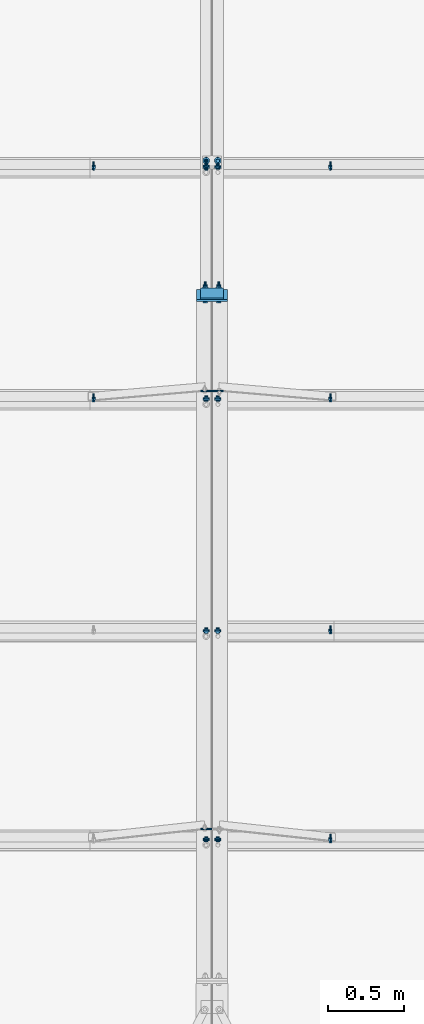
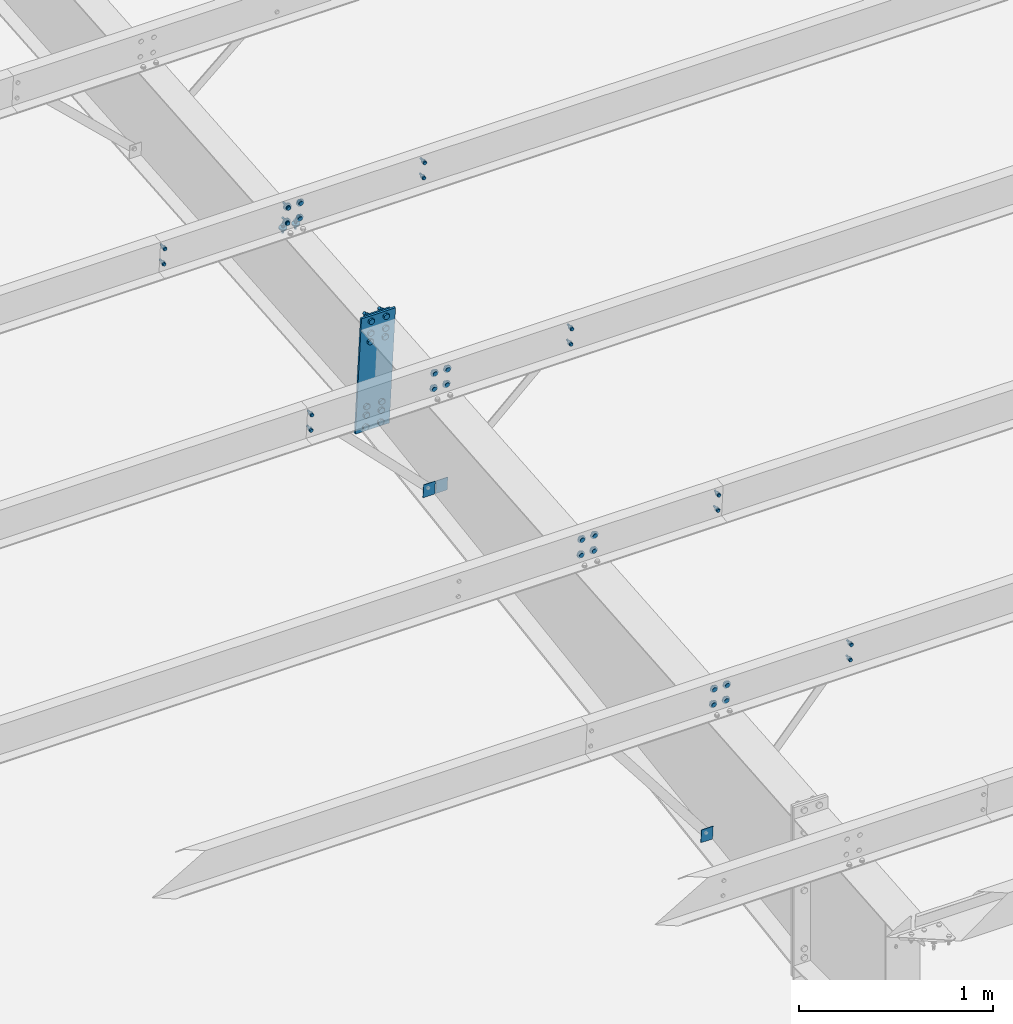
# One storey, part 74 of 185: 19 mechanical fasteners, 5 discrete accessories, 11 elements without a shape of their own.
"""IFC2X3 building model written with IfcOpenShell, lengths in millimetres."""

from ifc_helpers import new_model, si_unit, frame, origin_with_axes, origin_2d_with_axis, place, context, subcontext, project, spatial, polyline, rectangle, circle, outline, extrude, source, transform, mapped, material, type_object, element, aggregate, save


model = new_model("IFC2X3")

# Units and contexts
model_context = context("Model", 3, precision=1e-05, world=origin_with_axes())
body_context = subcontext(model_context, "Body", "Model", "MODEL_VIEW")
ifc_project = project(units=[si_unit("LENGTHUNIT", "METRE", prefix="MILLI"), si_unit("AREAUNIT", "SQUARE_METRE"), si_unit("VOLUMEUNIT", "CUBIC_METRE"), si_unit("MASSUNIT", "GRAM", prefix="KILO"), si_unit("TIMEUNIT", "SECOND"), si_unit("PLANEANGLEUNIT", "RADIAN"), si_unit("SOLIDANGLEUNIT", "STERADIAN"), si_unit("THERMODYNAMICTEMPERATUREUNIT", "DEGREE_CELSIUS"), si_unit("LUMINOUSINTENSITYUNIT", "LUMEN")], contexts=[model_context])

# Site, building, storey
site_placement = place(None, origin_with_axes())
site = spatial("IfcSite", under=ifc_project, at=site_placement, Name="Undefined", CompositionType="ELEMENT")
building_placement = place(site_placement, origin_with_axes())
building = spatial("IfcBuilding", under=site, at=building_placement, Name="Undefined", CompositionType="ELEMENT")
storey_placement = place(building_placement, origin_with_axes())
storey = spatial("IfcBuildingStorey", under=building, at=storey_placement, Name="Undefined", CompositionType="ELEMENT", Elevation=0.0)

# Assembly, mechanical fastener
assembly_1_placement = place(storey_placement, origin_with_axes())
assembly_1 = element("IfcElementAssembly", 1, at=assembly_1_placement, inside=storey, Name="Steel Assembly", AssemblyPlace="NOTDEFINED", PredefinedType="RIGID_FRAME")
ifc_material_1 = material(Name="Undefined")
discrete_accessory_type_1 = type_object("IfcDiscreteAccessoryType", Name="Bolt assembly")
shared_shape_1 = source(origin_with_axes(), body_context, "Body", "SweptSolid", [
    extrude(circle(Radius=7.14374971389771, at=origin_2d_with_axis()), frame((0.0, -1.59000001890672, 0.0), z_axis=(0.0, 1.0, 0.0), x_axis=(1.0, 0.0, 0.0)), (0.0, 0.0, 1.0), 3.3),
    extrude(circle(Radius=13.4937496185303, at=origin_2d_with_axis()), frame((0.0, -5.5587500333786, 0.0), z_axis=(0.0, 1.0, 0.0), x_axis=(1.0, 0.0, 0.0)), (0.0, 0.0, 1.0), 4.0),
    extrude(circle(Radius=22.2250003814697, at=origin_2d_with_axis()), frame((0.0, 1.5900000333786, 0.0), z_axis=(0.0, 1.0, 0.0), x_axis=(1.0, 0.0, 0.0)), (0.0, 0.0, 1.0), 7.9),
    extrude(outline(polyline([(12.8316099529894, 0.0), (6.4158049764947, 11.1125001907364), (-6.4158049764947, 11.1125001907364), (-12.8316099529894, 0.0), (-6.4158049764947, -11.1125001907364), (6.4158049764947, -11.1125001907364), (12.8316099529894, 0.0)])), frame((0.0, 9.5275000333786, 0.0), z_axis=(0.0, 1.0, 0.0), x_axis=(1.0, 0.0, 0.0)), (0.0, 0.0, 1.0), 12.3),
])
mechanical_fastener_1_placement = place(assembly_1_placement, frame((22517.1, 2185.7239412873, 6227.16757842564), z_axis=(1.0, 0.0, 0.0), x_axis=(0.0, 0.0830454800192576, -0.996545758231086)))
mechanical_fastener_1 = element("IfcMechanicalFastener", 2, at=mechanical_fastener_1_placement, type_object=discrete_accessory_type_1, material=ifc_material_1, Name="Bolt assembly", NominalDiameter=12.6999998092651, NominalLength=38.0999984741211, context=body_context, shape_type="MappedRepresentation", body=[
    mapped(shared_shape_1, transform((0.0, 0.0, 0.0))),
    mapped(shared_shape_1, transform((101.599998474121, 0.0, 0.0))),
])
aggregate(assembly_1, [mechanical_fastener_1])

assembly_2_placement = place(storey_placement, origin_with_axes())
assembly_2 = element("IfcElementAssembly", 3, at=assembly_2_placement, inside=storey, Name="Steel Assembly", AssemblyPlace="NOTDEFINED", PredefinedType="RIGID_FRAME")
mechanical_fastener_2_placement = place(assembly_2_placement, frame((22440.9, 2185.7239412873, 6227.16757842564), z_axis=(1.0, 0.0, 0.0), x_axis=(0.0, 0.0830454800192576, -0.996545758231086)))
mechanical_fastener_2 = element("IfcMechanicalFastener", 4, at=mechanical_fastener_2_placement, type_object=discrete_accessory_type_1, material=ifc_material_1, Name="Bolt assembly", NominalDiameter=12.6999998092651, NominalLength=38.0999984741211, context=body_context, shape_type="MappedRepresentation", body=[
    mapped(shared_shape_1, transform((0.0, 0.0, 0.0))),
    mapped(shared_shape_1, transform((101.599998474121, 0.0, 0.0))),
])

assembly_3_placement = place(storey_placement, origin_with_axes())
assembly_3 = element("IfcElementAssembly", 5, at=assembly_3_placement, inside=storey, Name="Steel Assembly", AssemblyPlace="NOTDEFINED", PredefinedType="RIGID_FRAME")
mechanical_fastener_3_placement = place(assembly_3_placement, frame((22517.1, 3552.58610327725, 6341.07275882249), z_axis=(1.0, 0.0, 0.0), x_axis=(0.0, 0.0830454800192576, -0.996545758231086)))
mechanical_fastener_3 = element("IfcMechanicalFastener", 6, at=mechanical_fastener_3_placement, type_object=discrete_accessory_type_1, material=ifc_material_1, Name="Bolt assembly", NominalDiameter=12.6999998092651, NominalLength=38.0999984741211, context=body_context, shape_type="MappedRepresentation", body=[
    mapped(shared_shape_1, transform((0.0, 0.0, 0.0))),
    mapped(shared_shape_1, transform((101.599998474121, 0.0, 0.0))),
])
aggregate(assembly_3, [mechanical_fastener_3])

assembly_4_placement = place(storey_placement, origin_with_axes())
assembly_4 = element("IfcElementAssembly", 7, at=assembly_4_placement, inside=storey, Name="Steel Assembly", AssemblyPlace="NOTDEFINED", PredefinedType="RIGID_FRAME")
mechanical_fastener_4_placement = place(assembly_4_placement, frame((22440.9, 3552.58610327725, 6341.07275882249), z_axis=(1.0, 0.0, 0.0), x_axis=(0.0, 0.0830454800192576, -0.996545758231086)))
mechanical_fastener_4 = element("IfcMechanicalFastener", 8, at=mechanical_fastener_4_placement, type_object=discrete_accessory_type_1, material=ifc_material_1, Name="Bolt assembly", NominalDiameter=12.6999998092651, NominalLength=38.0999984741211, context=body_context, shape_type="MappedRepresentation", body=[
    mapped(shared_shape_1, transform((0.0, 0.0, 0.0))),
    mapped(shared_shape_1, transform((101.599998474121, 0.0, 0.0))),
])

assembly_5_placement = place(storey_placement, origin_with_axes())
assembly_5 = element("IfcElementAssembly", 9, at=assembly_5_placement, inside=storey, Name="Steel Assembly", AssemblyPlace="NOTDEFINED", PredefinedType="RIGID_FRAME")
mechanical_fastener_5_placement = place(assembly_5_placement, frame((22517.1, 5071.32183882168, 6467.63407037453), z_axis=(1.0, 0.0, 0.0), x_axis=(0.0, 0.0830454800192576, -0.996545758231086)))
mechanical_fastener_5 = element("IfcMechanicalFastener", 10, at=mechanical_fastener_5_placement, type_object=discrete_accessory_type_1, material=ifc_material_1, Name="Bolt assembly", NominalDiameter=12.6999998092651, NominalLength=38.0999984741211, context=body_context, shape_type="MappedRepresentation", body=[
    mapped(shared_shape_1, transform((0.0, 0.0, 0.0))),
    mapped(shared_shape_1, transform((101.599998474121, 0.0, 0.0))),
])
aggregate(assembly_5, [mechanical_fastener_5])

assembly_6_placement = place(storey_placement, origin_with_axes())
assembly_6 = element("IfcElementAssembly", 11, at=assembly_6_placement, inside=storey, Name="Steel Assembly", AssemblyPlace="NOTDEFINED", PredefinedType="RIGID_FRAME")
mechanical_fastener_6_placement = place(assembly_6_placement, frame((22440.9, 5071.32183882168, 6467.63407037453), z_axis=(1.0, 0.0, 0.0), x_axis=(0.0, 0.0830454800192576, -0.996545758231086)))
mechanical_fastener_6 = element("IfcMechanicalFastener", 12, at=mechanical_fastener_6_placement, type_object=discrete_accessory_type_1, material=ifc_material_1, Name="Bolt assembly", NominalDiameter=12.6999998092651, NominalLength=38.0999984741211, context=body_context, shape_type="MappedRepresentation", body=[
    mapped(shared_shape_1, transform((0.0, 0.0, 0.0))),
    mapped(shared_shape_1, transform((101.599998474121, 0.0, 0.0))),
])

assembly_7_placement = place(storey_placement, origin_with_axes())
assembly_7 = element("IfcElementAssembly", 13, at=assembly_7_placement, inside=storey, Name="Steel Assembly", AssemblyPlace="NOTDEFINED", PredefinedType="RIGID_FRAME")
mechanical_fastener_7_placement = place(assembly_7_placement, frame((22517.1, 6590.05757436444, 6594.19538192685), z_axis=(1.0, 0.0, 0.0), x_axis=(0.0, 0.0830454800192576, -0.996545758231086)))
mechanical_fastener_7 = element("IfcMechanicalFastener", 14, at=mechanical_fastener_7_placement, type_object=discrete_accessory_type_1, material=ifc_material_1, Name="Bolt assembly", NominalDiameter=12.6999998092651, NominalLength=38.0999984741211, context=body_context, shape_type="MappedRepresentation", body=[
    mapped(shared_shape_1, transform((0.0, 0.0, 0.0))),
    mapped(shared_shape_1, transform((101.599998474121, 0.0, 0.0))),
])
aggregate(assembly_7, [mechanical_fastener_7])

assembly_8_placement = place(storey_placement, origin_with_axes())
assembly_8 = element("IfcElementAssembly", 15, at=assembly_8_placement, inside=storey, Name="Steel Assembly", AssemblyPlace="NOTDEFINED", PredefinedType="RIGID_FRAME")
mechanical_fastener_8_placement = place(assembly_8_placement, frame((22440.9, 6590.05757430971, 6594.19538268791), z_axis=(1.0, 0.0, 0.0), x_axis=(0.0, 0.0830454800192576, -0.996545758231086)))
mechanical_fastener_8 = element("IfcMechanicalFastener", 16, at=mechanical_fastener_8_placement, type_object=discrete_accessory_type_1, material=ifc_material_1, Name="Bolt assembly", NominalDiameter=12.6999998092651, NominalLength=38.0999984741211, context=body_context, shape_type="MappedRepresentation", body=[
    mapped(shared_shape_1, transform((0.0, 0.0, 0.0))),
    mapped(shared_shape_1, transform((101.599998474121, 0.0, 0.0))),
])

# Assembly, discrete accessories
assembly_9_placement = place(storey_placement, origin_with_axes())
assembly_9 = element("IfcElementAssembly", 17, at=assembly_9_placement, inside=storey, Name="Steel Assembly", AssemblyPlace="NOTDEFINED", PredefinedType="RIGID_FRAME")
ifc_material_2 = material(Name="STEEL/55")
discrete_accessory_type_2 = type_object("IfcDiscreteAccessoryType", Name="FLANGE BRACE FLIP")
discrete_accessory_1_placement = place(assembly_9_placement, frame((22481.381, 5133.65232140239, 5699.10123572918), z_axis=(0.0, -0.0830454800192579, 0.996545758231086), x_axis=(1.0, 0.0, 0.0)))
discrete_accessory_1 = element("IfcDiscreteAccessory", 18, at=discrete_accessory_1_placement, type_object=discrete_accessory_type_2, material=ifc_material_2, Name="FLANGE BRACE FLIP", ObjectType="PL1/8\"X2 3/4\"", context=body_context, shape_type="SweptSolid", body=[
    extrude(rectangle(XDim=3.416, YDim=85.725, at=origin_2d_with_axis()), frame((69.8499999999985, 0.0, 0.0), z_axis=(-1.0, 0.0, 0.0), x_axis=(0.0, -1.0, 0.0)), (0.0, 0.0, 1.0), 69.8),
])
discrete_accessory_2_placement = place(assembly_9_placement, frame((22476.619, 5133.65232140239, 5699.10123572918), z_axis=(0.0, -0.0830454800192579, 0.996545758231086), x_axis=(-1.0, 0.0, 0.0)))
discrete_accessory_2 = element("IfcDiscreteAccessory", 19, at=discrete_accessory_2_placement, type_object=discrete_accessory_type_2, material=ifc_material_2, Name="FLANGE BRACE FLIP", ObjectType="PL1/8\"X2 3/4\"", context=body_context, shape_type="SweptSolid", body=[
    extrude(rectangle(XDim=3.416, YDim=85.725, at=origin_2d_with_axis()), frame((69.8499999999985, 0.0, 0.0), z_axis=(-1.0, 0.0, 0.0), x_axis=(0.0, -1.0, 0.0)), (0.0, 0.0, 1.0), 69.8),
])
discrete_accessory_3_placement = place(assembly_9_placement, frame((22476.619, 2264.17630960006, 5265.17211501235), z_axis=(0.0, -0.0830454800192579, 0.996545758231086), x_axis=(-1.0, 0.0, 0.0)))
discrete_accessory_3 = element("IfcDiscreteAccessory", 20, at=discrete_accessory_3_placement, type_object=discrete_accessory_type_2, material=ifc_material_2, Name="FLANGE BRACE FLIP", ObjectType="PL1/8\"X2 3/4\"", context=body_context, shape_type="SweptSolid", body=[
    extrude(rectangle(XDim=3.416, YDim=85.725, at=origin_2d_with_axis()), frame((69.8499999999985, 0.0, 0.0), z_axis=(-1.0, 0.0, 0.0), x_axis=(0.0, -1.0, 0.0)), (0.0, 0.0, 1.0), 69.8),
])

# Assembly, mechanical fastener
assembly_10_placement = place(storey_placement, origin_with_axes())
assembly_10 = element("IfcElementAssembly", 21, at=assembly_10_placement, inside=storey, Name="Steel Assembly", AssemblyPlace="NOTDEFINED", PredefinedType="RIGID_FRAME")
shared_shape_2 = source(origin_with_axes(), body_context, "Body", "SweptSolid", [
    extrude(circle(Radius=7.14374971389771, at=origin_2d_with_axis()), frame((0.0, -4.65999985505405, 0.0), z_axis=(0.0, 1.0, 0.0), x_axis=(1.0, 0.0, 0.0)), (0.0, 0.0, 1.0), 4.8),
    extrude(circle(Radius=7.14374971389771, at=origin_2d_with_axis()), frame((0.0, -0.0238014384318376, 0.0), z_axis=(0.0, 1.0, 0.0), x_axis=(1.0, 0.0, 0.0)), (0.0, 0.0, 1.0), 8.0),
    extrude(outline(polyline([(12.8316099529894, 0.0), (6.4158049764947, 11.1125001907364), (-6.4158049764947, 11.1125001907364), (-12.8316099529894, 0.0), (-6.4158049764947, -11.1125001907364), (6.4158049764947, -11.1125001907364), (12.8316099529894, 0.0)])), frame((0.0, -12.697499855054, 0.0), z_axis=(0.0, 1.0, 0.0), x_axis=(1.0, 0.0, 0.0)), (0.0, 0.0, 1.0), 7.9),
    extrude(circle(Radius=6.34999990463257, at=origin_2d_with_axis()), frame((0.0, -4.75999985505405, 0.0), z_axis=(0.0, 1.0, 0.0), x_axis=(1.0, 0.0, 0.0)), (0.0, 0.0, 1.0), 50.8),
    extrude(circle(Radius=22.2250003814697, at=origin_2d_with_axis()), frame((0.0, 7.95019856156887, 0.0), z_axis=(0.0, 1.0, 0.0), x_axis=(1.0, 0.0, 0.0)), (0.0, 0.0, 1.0), 7.9),
    extrude(outline(polyline([(12.8316099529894, 0.0), (6.4158049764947, 11.1125001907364), (-6.4158049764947, 11.1125001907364), (-12.8316099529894, 0.0), (-6.4158049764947, -11.1125001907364), (6.4158049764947, -11.1125001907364), (12.8316099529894, 0.0)])), frame((0.0, 15.8876985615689, 0.0), z_axis=(0.0, 1.0, 0.0), x_axis=(1.0, 0.0, 0.0)), (0.0, 0.0, 1.0), 12.3),
])
mechanical_fastener_9_placement = place(assembly_10_placement, frame((22479.0, 6640.68209888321, 6445.4858411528), z_axis=(-1.0, 0.0, 0.0), x_axis=(0.0, 0.996545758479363, 0.0830454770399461)))
mechanical_fastener_9 = element("IfcMechanicalFastener", 22, at=mechanical_fastener_9_placement, type_object=discrete_accessory_type_1, material=ifc_material_1, Name="Bolt assembly", NominalDiameter=12.6999998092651, NominalLength=50.7999992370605, context=body_context, shape_type="MappedRepresentation", body=[
    mapped(shared_shape_2, transform((0.0, 0.0, -38.0999984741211))),
    mapped(shared_shape_2, transform((0.0, 0.0, 38.0999984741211))),
])

# Assembly, mechanical fasteners
assembly_11_placement = place(storey_placement, origin_with_axes())
assembly_11 = element("IfcElementAssembly", 23, at=assembly_11_placement, inside=storey, Name="Steel Assembly", AssemblyPlace="NOTDEFINED", PredefinedType="RIGID_FRAME")
shared_shape_3 = source(origin_with_axes(), body_context, "Body", "SweptSolid", [
    extrude(circle(Radius=7.14374971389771, at=origin_2d_with_axis()), frame((0.0, 0.0, 0.0), z_axis=(0.0, 1.0, 0.0), x_axis=(1.0, 0.0, 0.0)), (0.0, 0.0, 1.0), 4.9),
    extrude(outline(polyline([(12.8316099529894, 0.0), (6.4158049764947, 11.1125001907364), (-6.4158049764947, 11.1125001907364), (-12.8316099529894, 0.0), (-6.4158049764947, -11.1125001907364), (6.4158049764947, -11.1125001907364), (12.8316099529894, 0.0)])), frame((0.0, 4.76000382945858, 0.0), z_axis=(0.0, 1.0, 0.0), x_axis=(1.0, 0.0, 0.0)), (0.0, 0.0, 1.0), 12.3),
])
mechanical_fastener_10_placement = place(assembly_11_placement, frame((22517.1, 6590.05757436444, 6594.19538192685), z_axis=(1.0, 0.0, 0.0), x_axis=(0.0, 0.0830454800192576, -0.996545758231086)))
mechanical_fastener_10 = element("IfcMechanicalFastener", 24, at=mechanical_fastener_10_placement, type_object=discrete_accessory_type_1, material=ifc_material_1, Name="Bolt assembly", NominalDiameter=12.6999998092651, NominalLength=50.7999992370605, context=body_context, shape_type="MappedRepresentation", body=[
    mapped(shared_shape_3, transform((0.0, 0.0, 0.0))),
    mapped(shared_shape_3, transform((101.599998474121, 0.0, 0.0))),
])
shared_shape_4 = source(origin_with_axes(), body_context, "Body", "SweptSolid", [
    extrude(circle(Radius=7.14374971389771, at=origin_2d_with_axis()), frame((0.0, 0.0, 0.0), z_axis=(0.0, 1.0, 0.0), x_axis=(1.0, 0.0, 0.0)), (0.0, 0.0, 1.0), 4.9),
    extrude(outline(polyline([(12.8316099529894, 0.0), (6.4158049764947, 11.1125001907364), (-6.4158049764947, 11.1125001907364), (-12.8316099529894, 0.0), (-6.4158049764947, -11.1125001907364), (6.4158049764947, -11.1125001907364), (12.8316099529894, 0.0)])), frame((0.0, -11.9062498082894, 0.0), z_axis=(0.0, 1.0, 0.0), x_axis=(1.0, 0.0, 0.0)), (0.0, 0.0, 1.0), 7.9),
    extrude(circle(Radius=6.34999990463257, at=origin_2d_with_axis()), frame((0.0, -3.96874999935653, 0.0), z_axis=(0.0, 1.0, 0.0), x_axis=(1.0, 0.0, 0.0)), (0.0, 0.0, 1.0), 50.8),
    extrude(circle(Radius=13.4937496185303, at=origin_2d_with_axis()), frame((0.0, -3.96874999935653, 0.0), z_axis=(0.0, 1.0, 0.0), x_axis=(1.0, 0.0, 0.0)), (0.0, 0.0, 1.0), 4.0),
    extrude(circle(Radius=22.2250003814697, at=origin_2d_with_axis()), frame((0.0, 4.76000382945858, 0.0), z_axis=(0.0, 1.0, 0.0), x_axis=(1.0, 0.0, 0.0)), (0.0, 0.0, 1.0), 7.9),
    extrude(outline(polyline([(12.8316099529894, 0.0), (6.4158049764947, 11.1125001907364), (-6.4158049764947, 11.1125001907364), (-12.8316099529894, 0.0), (-6.4158049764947, -11.1125001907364), (6.4158049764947, -11.1125001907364), (12.8316099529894, 0.0)])), frame((0.0, 12.6975038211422, 0.0), z_axis=(0.0, 1.0, 0.0), x_axis=(1.0, 0.0, 0.0)), (0.0, 0.0, 1.0), 12.3),
])
mechanical_fastener_11_placement = place(assembly_11_placement, frame((22440.9, 6590.05757430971, 6594.19538268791), z_axis=(1.0, 0.0, 0.0), x_axis=(0.0, 0.0830454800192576, -0.996545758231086)))
mechanical_fastener_11 = element("IfcMechanicalFastener", 25, at=mechanical_fastener_11_placement, type_object=discrete_accessory_type_1, material=ifc_material_1, Name="Bolt assembly", NominalDiameter=12.6999998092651, NominalLength=50.7999992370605, context=body_context, shape_type="MappedRepresentation", body=[
    mapped(shared_shape_4, transform((0.0, 0.0, 0.0))),
    mapped(shared_shape_4, transform((101.599998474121, 0.0, 0.0))),
])
aggregate(assembly_11, [mechanical_fastener_10, mechanical_fastener_11])

# Mechanical fastener
shared_shape_5 = source(origin_with_axes(), body_context, "Body", "SweptSolid", [
    extrude(circle(Radius=7.14374971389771, at=origin_2d_with_axis()), frame((0.0, -1.4900000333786, 0.0), z_axis=(0.0, 1.0, 0.0), x_axis=(1.0, 0.0, 0.0)), (0.0, 0.0, 1.0), 3.2),
    extrude(circle(Radius=7.14374971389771, at=origin_2d_with_axis()), frame((0.0, -1.4900000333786, 0.0), z_axis=(0.0, 1.0, 0.0), x_axis=(1.0, 0.0, 0.0)), (0.0, 0.0, 1.0), 3.2),
    extrude(outline(polyline([(10.9985221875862, 0.0), (5.4992610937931, 9.52499961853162), (-5.4992610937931, 9.52499961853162), (-10.9985221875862, 0.0), (-5.4992610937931, -9.52499961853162), (5.4992610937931, -9.52499961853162), (10.9985221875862, 0.0)])), frame((0.0, -11.1149996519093, 0.0), z_axis=(0.0, 1.0, 0.0), x_axis=(1.0, 0.0, 0.0)), (0.0, 0.0, 1.0), 9.5),
    extrude(circle(Radius=6.34999990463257, at=origin_2d_with_axis()), frame((0.0, -1.59000001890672, 0.0), z_axis=(0.0, 1.0, 0.0), x_axis=(1.0, 0.0, 0.0)), (0.0, 0.0, 1.0), 38.1),
    extrude(outline(polyline([(12.8316099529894, 0.0), (6.4158049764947, 11.1125001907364), (-6.4158049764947, 11.1125001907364), (-12.8316099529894, 0.0), (-6.4158049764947, -11.1125001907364), (6.4158049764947, -11.1125001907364), (12.8316099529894, 0.0)])), frame((0.0, 1.5900000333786, 0.0), z_axis=(0.0, 1.0, 0.0), x_axis=(1.0, 0.0, 0.0)), (0.0, 0.0, 1.0), 12.3),
])
mechanical_fastener_12_placement = place(assembly_2_placement, frame((23253.7, 2185.7239412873, 6227.16757842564), z_axis=(1.0, 0.0, 0.0), x_axis=(0.0, 0.0830454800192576, -0.996545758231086)))
mechanical_fastener_12 = element("IfcMechanicalFastener", 26, at=mechanical_fastener_12_placement, type_object=discrete_accessory_type_1, material=ifc_material_1, Name="Bolt assembly", NominalDiameter=12.6999998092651, NominalLength=38.0999984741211, context=body_context, shape_type="MappedRepresentation", body=[
    mapped(shared_shape_5, transform((0.0, 0.0, 0.0))),
    mapped(shared_shape_5, transform((101.599998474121, 0.0, 0.0))),
])

aggregate(assembly_2, [mechanical_fastener_2, mechanical_fastener_12])

mechanical_fastener_13_placement = place(assembly_4_placement, frame((23253.7, 3552.58610327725, 6341.07275882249), z_axis=(1.0, 0.0, 0.0), x_axis=(0.0, 0.0830454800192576, -0.996545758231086)))
mechanical_fastener_13 = element("IfcMechanicalFastener", 27, at=mechanical_fastener_13_placement, type_object=discrete_accessory_type_1, material=ifc_material_1, Name="Bolt assembly", NominalDiameter=12.6999998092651, NominalLength=38.0999984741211, context=body_context, shape_type="MappedRepresentation", body=[
    mapped(shared_shape_5, transform((0.0, 0.0, 0.0))),
    mapped(shared_shape_5, transform((101.599998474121, 0.0, 0.0))),
])

aggregate(assembly_4, [mechanical_fastener_4, mechanical_fastener_13])

mechanical_fastener_14_placement = place(assembly_6_placement, frame((23253.7, 5071.32183882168, 6467.63407037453), z_axis=(1.0, 0.0, 0.0), x_axis=(0.0, 0.0830454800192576, -0.996545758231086)))
mechanical_fastener_14 = element("IfcMechanicalFastener", 28, at=mechanical_fastener_14_placement, type_object=discrete_accessory_type_1, material=ifc_material_1, Name="Bolt assembly", NominalDiameter=12.6999998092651, NominalLength=38.0999984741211, context=body_context, shape_type="MappedRepresentation", body=[
    mapped(shared_shape_5, transform((0.0, 0.0, 0.0))),
    mapped(shared_shape_5, transform((101.599998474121, 0.0, 0.0))),
])

mechanical_fastener_15_placement = place(assembly_6_placement, frame((21704.3, 5071.32183882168, 6467.63407037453), z_axis=(1.0, 0.0, 0.0), x_axis=(0.0, 0.0830454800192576, -0.996545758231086)))
mechanical_fastener_15 = element("IfcMechanicalFastener", 29, at=mechanical_fastener_15_placement, type_object=discrete_accessory_type_1, material=ifc_material_1, Name="Bolt assembly", NominalDiameter=12.6999998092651, NominalLength=38.0999984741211, context=body_context, shape_type="MappedRepresentation", body=[
    mapped(shared_shape_5, transform((0.0, 0.0, 0.0))),
    mapped(shared_shape_5, transform((101.599998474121, 0.0, 0.0))),
])

aggregate(assembly_6, [mechanical_fastener_6, mechanical_fastener_14, mechanical_fastener_15])

mechanical_fastener_16_placement = place(assembly_8_placement, frame((23253.7, 6590.05757436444, 6594.19538192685), z_axis=(1.0, 0.0, 0.0), x_axis=(0.0, 0.0830454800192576, -0.996545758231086)))
mechanical_fastener_16 = element("IfcMechanicalFastener", 30, at=mechanical_fastener_16_placement, type_object=discrete_accessory_type_1, material=ifc_material_1, Name="Bolt assembly", NominalDiameter=12.6999998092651, NominalLength=38.0999984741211, context=body_context, shape_type="MappedRepresentation", body=[
    mapped(shared_shape_5, transform((0.0, 0.0, 0.0))),
    mapped(shared_shape_5, transform((101.599998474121, 0.0, 0.0))),
])

mechanical_fastener_17_placement = place(assembly_8_placement, frame((21704.3, 6590.05757436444, 6594.19538192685), z_axis=(1.0, 0.0, 0.0), x_axis=(0.0, 0.0830454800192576, -0.996545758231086)))
mechanical_fastener_17 = element("IfcMechanicalFastener", 31, at=mechanical_fastener_17_placement, type_object=discrete_accessory_type_1, material=ifc_material_1, Name="Bolt assembly", NominalDiameter=12.6999998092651, NominalLength=38.0999984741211, context=body_context, shape_type="MappedRepresentation", body=[
    mapped(shared_shape_5, transform((0.0, 0.0, 0.0))),
    mapped(shared_shape_5, transform((101.599998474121, 0.0, 0.0))),
])

aggregate(assembly_8, [mechanical_fastener_8, mechanical_fastener_16, mechanical_fastener_17])

# Discrete accessory
discrete_accessory_type_3 = type_object("IfcDiscreteAccessoryType", Name="Start Splice Plate")
discrete_accessory_4_placement = place(assembly_10_placement, frame((22479.0, 5736.98021246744, 6441.84972626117), z_axis=(1.0, 0.0, 0.0), x_axis=(0.0, 0.0830454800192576, -0.996545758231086)))
discrete_accessory_4 = element("IfcDiscreteAccessory", 32, at=discrete_accessory_4_placement, type_object=discrete_accessory_type_3, material=ifc_material_2, Name="Start Splice Plate", ObjectType="PL3/8\"X6\"", context=body_context, shape_type="SweptSolid", body=[
    extrude(rectangle(XDim=9.652, YDim=152.4, at=origin_2d_with_axis()), frame((768.349996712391, 0.0, 0.0), z_axis=(-1.0, 0.0, 0.0), x_axis=(0.0, -1.0, 0.0)), (0.0, 0.0, 1.0), 768.3),
])

aggregate(assembly_10, [mechanical_fastener_9, discrete_accessory_4])

discrete_accessory_type_4 = type_object("IfcDiscreteAccessoryType", Name="End Splice Plate")
discrete_accessory_5_placement = place(assembly_9_placement, frame((22479.0, 5725.84281707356, 6440.9216099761), z_axis=(1.0, 0.0, 0.0), x_axis=(0.0, 0.0830454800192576, -0.996545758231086)))
discrete_accessory_5 = element("IfcDiscreteAccessory", 33, at=discrete_accessory_5_placement, type_object=discrete_accessory_type_4, material=ifc_material_2, Name="End Splice Plate", ObjectType="FL1/2\"X8\"", context=body_context, shape_type="SweptSolid", body=[
    extrude(rectangle(XDim=12.7, YDim=203.2, at=origin_2d_with_axis()), frame((768.349996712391, 0.0, 0.0), z_axis=(-1.0, 0.0, 0.0), x_axis=(0.0, -1.0, 0.0)), (0.0, 0.0, 1.0), 768.3),
])

# Mechanical fastener
shared_shape_6 = source(origin_with_axes(), body_context, "Body", "SweptSolid", [
    extrude(circle(Radius=10.3187494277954, at=origin_2d_with_axis()), frame((0.0, -0.1, 0.0), z_axis=(0.0, 1.0, 0.0), x_axis=(1.0, 0.0, 0.0)), (0.0, 0.0, 1.0), 9.8),
    extrude(circle(Radius=10.3187494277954, at=origin_2d_with_axis()), frame((0.0, -12.5999999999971, 0.0), z_axis=(0.0, 1.0, 0.0), x_axis=(1.0, 0.0, 0.0)), (0.0, 0.0, 1.0), 12.7),
    extrude(outline(polyline([(18.3308710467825, 0.0), (9.16543552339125, 15.8750000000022), (-9.16543552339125, 15.8750000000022), (-18.3308710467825, 0.0), (-9.16543552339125, -15.8750000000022), (9.16543552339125, -15.8750000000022), (18.3308710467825, 0.0)])), frame((0.0, -24.6062499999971, 0.0), z_axis=(0.0, 1.0, 0.0), x_axis=(1.0, 0.0, 0.0)), (0.0, 0.0, 1.0), 11.9),
    extrude(circle(Radius=9.52499961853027, at=origin_2d_with_axis()), frame((0.0, -12.6999999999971, 0.0), z_axis=(0.0, 1.0, 0.0), x_axis=(1.0, 0.0, 0.0)), (0.0, 0.0, 1.0), 69.8),
    extrude(circle(Radius=22.2250003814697, at=origin_2d_with_axis()), frame((0.0, 9.65200009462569, 0.0), z_axis=(0.0, 1.0, 0.0), x_axis=(1.0, 0.0, 0.0)), (0.0, 0.0, 1.0), 7.9),
    extrude(outline(polyline([(18.3308710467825, 0.0), (9.16543552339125, 15.8750000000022), (-9.16543552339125, 15.8750000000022), (-18.3308710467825, 0.0), (-9.16543552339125, -15.8750000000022), (9.16543552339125, -15.8750000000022), (18.3308710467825, 0.0)])), frame((0.0, 17.5895000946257, 0.0), z_axis=(0.0, 1.0, 0.0), x_axis=(1.0, 0.0, 0.0)), (0.0, 0.0, 1.0), 19.0),
])
mechanical_fastener_18_placement = place(assembly_9_placement, frame((22479.0, 5793.342183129, 5707.39334435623), z_axis=(-1.0, 0.0, 0.0), x_axis=(0.0, -0.0830454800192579, 0.996545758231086)))
mechanical_fastener_18 = element("IfcMechanicalFastener", 34, at=mechanical_fastener_18_placement, type_object=discrete_accessory_type_1, material=ifc_material_1, Name="Bolt assembly", NominalDiameter=19.0499992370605, NominalLength=69.8499984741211, context=body_context, shape_type="MappedRepresentation", body=[
    mapped(shared_shape_6, transform((0.0, 0.0, -44.4500007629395))),
    mapped(shared_shape_6, transform((79.3750000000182, 6.18456397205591e-11, -44.4500007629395))),
    mapped(shared_shape_6, transform((136.524993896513, 1.0550138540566e-10, -44.4500007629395))),
    mapped(shared_shape_6, transform((0.0, 0.0, 44.4500007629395))),
    mapped(shared_shape_6, transform((79.3750000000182, 6.18456397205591e-11, 44.4500007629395))),
    mapped(shared_shape_6, transform((136.524993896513, 1.0550138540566e-10, 44.4500007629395))),
])

mechanical_fastener_19_placement = place(assembly_9_placement, frame((22479.0, 5734.80757653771, 6409.80862204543), z_axis=(1.0, 0.0, 0.0), x_axis=(0.0, 0.0830454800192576, -0.996545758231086)))
mechanical_fastener_19 = element("IfcMechanicalFastener", 35, at=mechanical_fastener_19_placement, type_object=discrete_accessory_type_1, material=ifc_material_1, Name="Bolt assembly", NominalDiameter=19.0499992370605, NominalLength=69.8499984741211, context=body_context, shape_type="MappedRepresentation", body=[
    mapped(shared_shape_6, transform((0.0, 0.0, -44.4500007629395))),
    mapped(shared_shape_6, transform((79.3750000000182, 6.18456397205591e-11, -44.4500007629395))),
    mapped(shared_shape_6, transform((136.524993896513, 1.0550138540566e-10, -44.4500007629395))),
    mapped(shared_shape_6, transform((0.0, 0.0, 44.4500007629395))),
    mapped(shared_shape_6, transform((79.3750000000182, 6.18456397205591e-11, 44.4500007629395))),
    mapped(shared_shape_6, transform((136.524993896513, 1.0550138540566e-10, 44.4500007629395))),
])

aggregate(assembly_9, [discrete_accessory_1, discrete_accessory_2, discrete_accessory_3, mechanical_fastener_18, mechanical_fastener_19, discrete_accessory_5])

save(model, "model.ifc")
